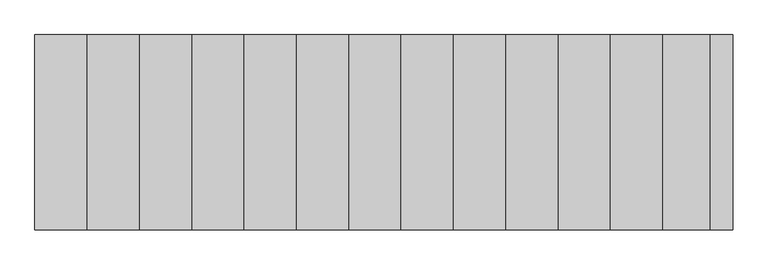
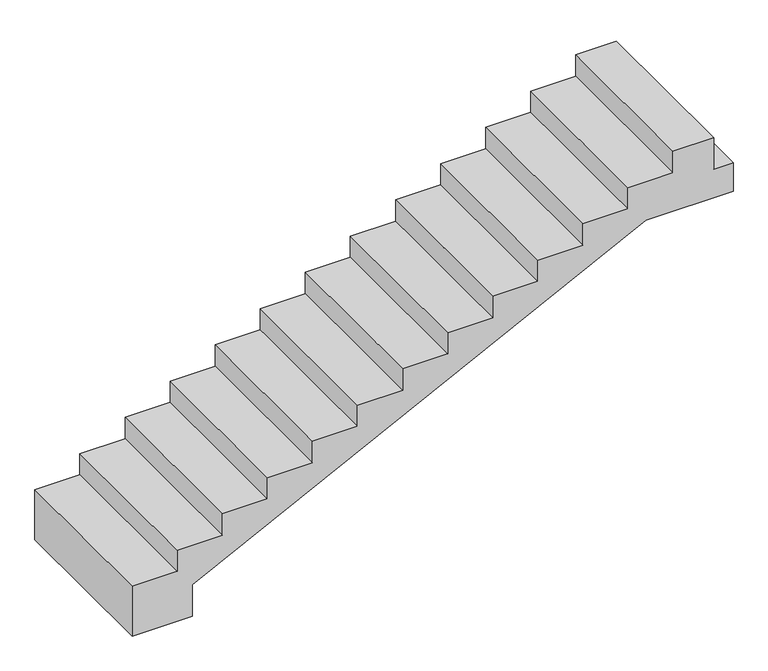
"""IFC4 building model written with IfcOpenShell, lengths in millimetres: beam geometry, SF_марш монолитный с отделкой_3.4 : UP_300х150."""

from ifc_helpers import new_model, si_unit, origin, place, context, project, spatial, faceted_brep, source, transform, mapped, element, save


def beam_0b8e79a3(model_context):
    return source(origin(), model_context, "Body", "Brep", [
        faceted_brep([(3717.7708764, 560.0, 1530.0), (3717.7708764, -560.0, 1530.0), (700.0, -560.0, 21.1145618), (700.0, 560.0, 21.1145618), (4170.0, -560.0, 1730.0), (4170.0, -560.0, 1950.0), (3900.0, -560.0, 1950.0), (3900.0, -560.0, 1800.0), (3600.0, -560.0, 1800.0), (3600.0, -560.0, 1650.0), (3300.0, -560.0, 1650.0), (3300.0, -560.0, 1500.0), (3000.0, -560.0, 1500.0), (3000.0, -560.0, 1350.0), (2700.0, -560.0, 1350.0), (2700.0, -560.0, 1200.0), (2400.0, -560.0, 1200.0), (2400.0, -560.0, 1050.0), (2100.0, -560.0, 1050.0), (2100.0, -560.0, 900.0), (1800.0, -560.0, 900.0), (1800.0, -560.0, 750.0), (1500.0, -560.0, 750.0), (1500.0, -560.0, 600.0), (1200.0, -560.0, 600.0), (1200.0, -560.0, 450.0), (900.0, -560.0, 450.0), (900.0, -560.0, 300.0), (600.0, -560.0, 300.0), (600.0, -560.0, 150.0), (300.0, -560.0, 150.0), (300.0, -560.0, 0.0), (300.0, -560.0, -200.0), (700.0, -560.0, -200.0), (4300.0, -560.0, 1530.0), (4300.0, -560.0, 1730.0), (4170.0, 560.0, 1950.0), (4170.0, 560.0, 1730.0), (4300.0, 560.0, 1730.0), (4300.0, 560.0, 1530.0), (700.0, 560.0, -200.0), (300.0, 560.0, -200.0), (300.0, 560.0, 0.0), (300.0, 560.0, 150.0), (600.0, 560.0, 150.0), (600.0, 560.0, 300.0), (900.0, 560.0, 300.0), (900.0, 560.0, 450.0), (1200.0, 560.0, 450.0), (1200.0, 560.0, 600.0), (1500.0, 560.0, 600.0), (1500.0, 560.0, 750.0), (1800.0, 560.0, 750.0), (1800.0, 560.0, 900.0), (2100.0, 560.0, 900.0), (2100.0, 560.0, 1050.0), (2400.0, 560.0, 1050.0), (2400.0, 560.0, 1200.0), (2700.0, 560.0, 1200.0), (2700.0, 560.0, 1350.0), (3000.0, 560.0, 1350.0), (3000.0, 560.0, 1500.0), (3300.0, 560.0, 1500.0), (3300.0, 560.0, 1650.0), (3600.0, 560.0, 1650.0), (3600.0, 560.0, 1800.0), (3900.0, 560.0, 1800.0), (3900.0, 560.0, 1950.0)], [[[0, 1, 2, 3]], [[4, 5, 6, 7, 8, 9, 10, 11, 12, 13, 14, 15, 16, 17, 18, 19, 20, 21, 22, 23, 24, 25, 26, 27, 28, 29, 30, 31, 32, 33, 2, 1, 34, 35]], [[36, 37, 38, 39, 0, 3, 40, 41, 42, 43, 44, 45, 46, 47, 48, 49, 50, 51, 52, 53, 54, 55, 56, 57, 58, 59, 60, 61, 62, 63, 64, 65, 66, 67]], [[1, 0, 39, 34]], [[29, 44, 43, 30]], [[44, 29, 28, 45]], [[45, 28, 27, 46]], [[46, 27, 26, 47]], [[47, 26, 25, 48]], [[48, 25, 24, 49]], [[49, 24, 23, 50]], [[50, 23, 22, 51]], [[51, 22, 21, 52]], [[52, 21, 20, 53]], [[53, 20, 19, 54]], [[54, 19, 18, 55]], [[55, 18, 17, 56]], [[56, 17, 16, 57]], [[57, 16, 15, 58]], [[58, 15, 14, 59]], [[59, 14, 13, 60]], [[60, 13, 12, 61]], [[61, 12, 11, 62]], [[62, 11, 10, 63]], [[63, 10, 9, 64]], [[64, 9, 8, 65]], [[65, 8, 7, 66]], [[66, 7, 6, 67]], [[40, 33, 32, 41]], [[5, 36, 67, 6]], [[39, 38, 35, 34]], [[33, 40, 3, 2]], [[37, 4, 35, 38]], [[5, 4, 37, 36]], [[41, 32, 31, 30, 43, 42]]]),
    ])


if __name__ == "__main__":
    model = new_model("IFC4")
    model_context = context("Model", 3, world=origin())
    ifc_project = project(units=[si_unit("LENGTHUNIT", "METRE", prefix="MILLI")], contexts=[model_context])
    site = spatial("IfcSite", under=ifc_project)
    building = spatial("IfcBuilding", under=site)
    placement = place(None, origin())
    beam_shape = beam_0b8e79a3(model_context)
    element("IfcBeam", 1, ObjectType="SF_марш монолитный с отделкой_3.4 : UP_300х150", at=placement, inside=building, context=model_context, shape_type="MappedRepresentation", body=[
        mapped(beam_shape, transform((0.0, 0.0, 0.0), x_axis=(1.0, 0.0, 0.0), y_axis=(0.0, 1.0, 0.0), z_axis=(0.0, 0.0, 1.0))),
    ])
    save(model, "model.ifc")
